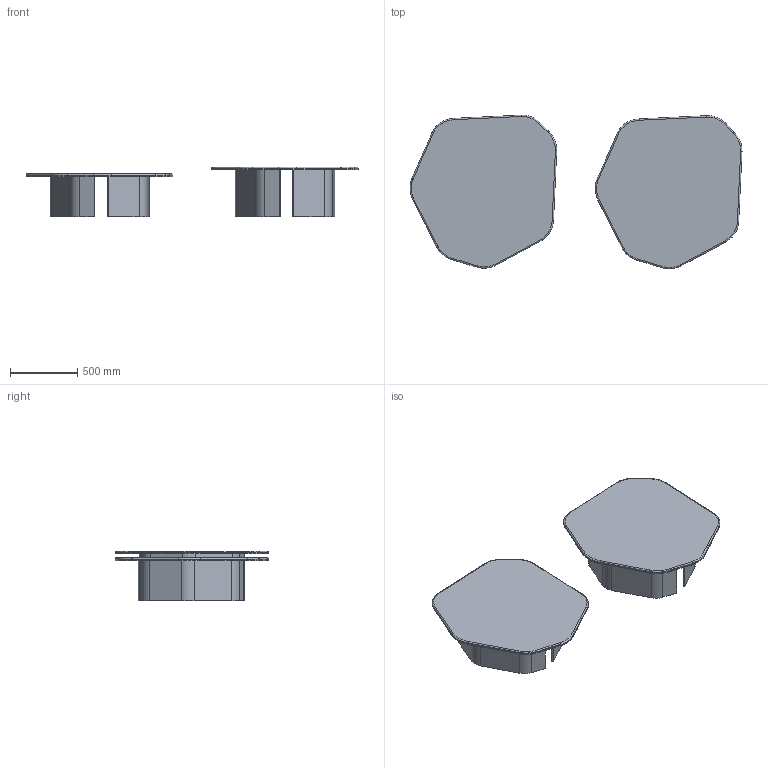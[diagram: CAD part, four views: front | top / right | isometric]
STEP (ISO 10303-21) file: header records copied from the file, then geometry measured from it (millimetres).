
FILE_DESCRIPTION(/* description */ (''),/* implementation_level */ '2;1');
FILE_NAME(/* name */ 'ASTEROIDS-coffee-table',/* time_stamp */ '2026-06-29T11:54:23+02:00',/* author */ (''),/* organization */ (''),/* preprocessor_version */ 'ST-DEVELOPER v16.5',/* originating_system */ '',/* authorisation */ '');
FILE_SCHEMA (('CONFIG_CONTROL_DESIGN'));
Length unit declared in the file: millimetre
Products named in the file (1): Document
Bounding box: 2464.88 x 1141.65 x 370 mm (x, y, z)
Volume: 73893971.8 mm3; surface area: 11141009.4 mm2
Topology: 8 solids, 8 shells, 192 faces, 472 edges, 296 vertices
Faces by surface type: bspline 176, plane 16
Entity records: 5628 total; most frequent: CARTESIAN_POINT 3182, ORIENTED_EDGE 944, EDGE_CURVE 472, VERTEX_POINT 296, ADVANCED_FACE 192, FACE_OUTER_BOUND 192, EDGE_LOOP 192, DIRECTION 20
